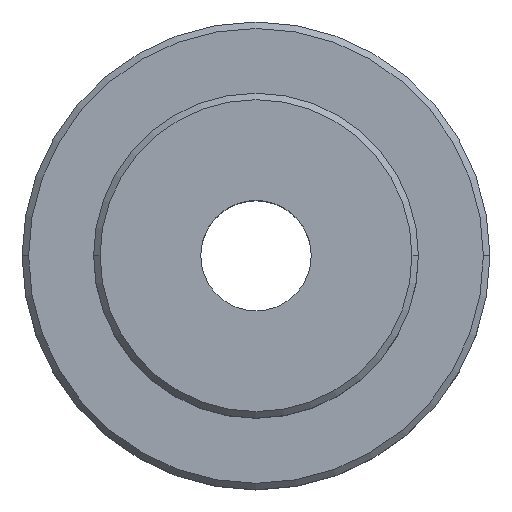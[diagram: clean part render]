
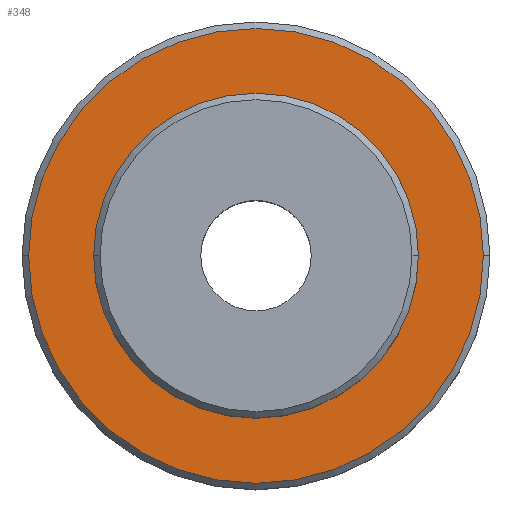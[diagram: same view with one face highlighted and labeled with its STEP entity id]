
A CAD part, top view. The second image highlights one B-rep face of the part: STEP entity #348.
In plain terms, the highlighted planar face has unit normal (0, 0, 1).
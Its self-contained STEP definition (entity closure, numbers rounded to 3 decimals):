
#105=AXIS2_PLACEMENT_3D('Circle Axis2P3D',#103,#104,$) ;
#131=AXIS2_PLACEMENT_3D('Circle Axis2P3D',#129,#130,$) ;
#324=AXIS2_PLACEMENT_3D('Plane Axis2P3D',#321,#322,#323) ;
#328=AXIS2_PLACEMENT_3D('Circle Axis2P3D',#326,#327,$) ;
#337=AXIS2_PLACEMENT_3D('Circle Axis2P3D',#335,#336,$) ;
#100=CARTESIAN_POINT('Vertex',(12.5,0.,10.)) ;
#103=CARTESIAN_POINT('Axis2P3D Location',(0.,0.,10.)) ;
#107=CARTESIAN_POINT('Vertex',(-12.5,0.,10.)) ;
#129=CARTESIAN_POINT('Axis2P3D Location',(0.,0.,10.)) ;
#321=CARTESIAN_POINT('Axis2P3D Location',(0.,0.,10.)) ;
#326=CARTESIAN_POINT('Axis2P3D Location',(0.,0.,10.)) ;
#330=CARTESIAN_POINT('Vertex',(-17.5,0.,10.)) ;
#332=CARTESIAN_POINT('Vertex',(17.5,0.,10.)) ;
#335=CARTESIAN_POINT('Axis2P3D Location',(0.,0.,10.)) ;
#104=DIRECTION('Axis2P3D Direction',(0.,0.,1.)) ;
#130=DIRECTION('Axis2P3D Direction',(0.,0.,1.)) ;
#322=DIRECTION('Axis2P3D Direction',(0.,0.,1.)) ;
#323=DIRECTION('Axis2P3D XDirection',(1.,0.,0.)) ;
#327=DIRECTION('Axis2P3D Direction',(0.,0.,1.)) ;
#336=DIRECTION('Axis2P3D Direction',(0.,0.,1.)) ;
#341=ORIENTED_EDGE('',*,*,#334,.T.) ;
#342=ORIENTED_EDGE('',*,*,#339,.T.) ;
#345=ORIENTED_EDGE('',*,*,#133,.F.) ;
#346=ORIENTED_EDGE('',*,*,#109,.F.) ;
#347=FACE_BOUND('',#344,.T.) ;
#348=ADVANCED_FACE('\X2\96F64EF651E04F554F53\X0\',(#343,#347),#325,.T.) ;
#106=CIRCLE('generated circle',#105,12.5) ;
#132=CIRCLE('generated circle',#131,12.5) ;
#329=CIRCLE('generated circle',#328,17.5) ;
#338=CIRCLE('generated circle',#337,17.5) ;
#109=EDGE_CURVE('',#101,#108,#106,.T.) ;
#133=EDGE_CURVE('',#108,#101,#132,.T.) ;
#334=EDGE_CURVE('',#331,#333,#329,.T.) ;
#339=EDGE_CURVE('',#333,#331,#338,.T.) ;
#340=EDGE_LOOP('',(#341,#342)) ;
#344=EDGE_LOOP('',(#345,#346)) ;
#343=FACE_OUTER_BOUND('',#340,.T.) ;
#325=PLANE('',#324) ;
#101=VERTEX_POINT('',#100) ;
#108=VERTEX_POINT('',#107) ;
#331=VERTEX_POINT('',#330) ;
#333=VERTEX_POINT('',#332) ;
